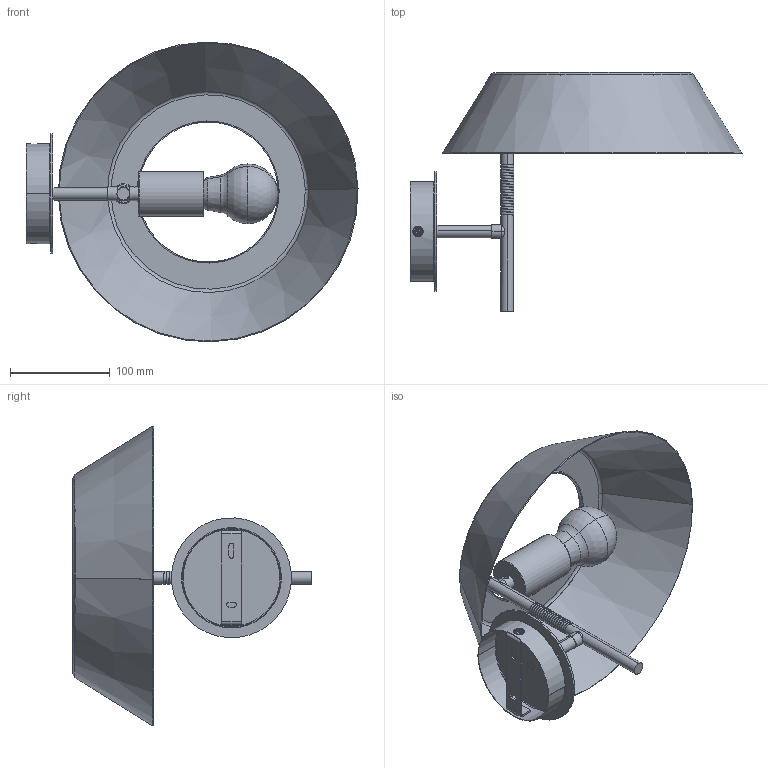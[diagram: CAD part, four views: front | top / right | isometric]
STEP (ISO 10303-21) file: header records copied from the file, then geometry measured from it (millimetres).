
FILE_DESCRIPTION (( 'STEP AP214' ), '1' );
FILE_NAME ('A1287_AIDER.STEP', '2024-01-24T14:32:27', ( '' ), ( '' ), 'SwSTEP 2.0', 'SolidWorks 2018', '' );
FILE_SCHEMA (( 'AUTOMOTIVE_DESIGN' ));
Length unit declared in the file: millimetre
Products named in the file (2): A1287_AIDER
Bounding box: 332.13 x 239 x 299.89 mm (x, y, z)
Volume: 306049.4 mm3; surface area: 302552.9 mm2
Topology: 15 solids, 15 shells, 384 faces, 965 edges, 614 vertices
Faces by surface type: cylinder 191, plane 84, torus 50, cone 38, bspline 17, sphere 4
Entity records: 28125 total; most frequent: CARTESIAN_POINT 15172, ORIENTED_EDGE 1924, DIRECTION 1661, EDGE_CURVE 962, AXIS2_PLACEMENT_3D 666, VERTEX_POINT 613, EDGE_LOOP 427, UNCERTAINTY_MEASURE_WITH_UNIT 401
